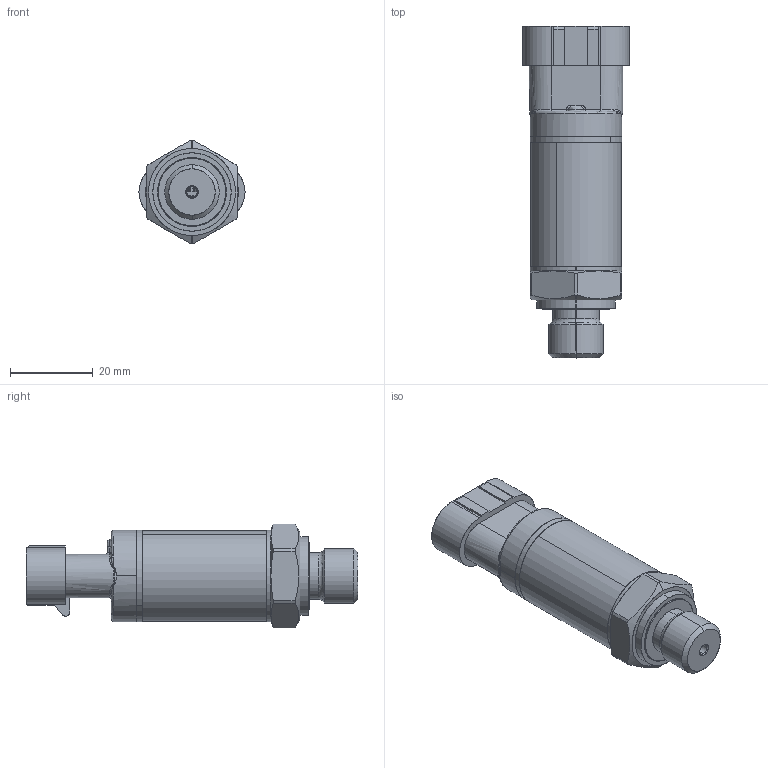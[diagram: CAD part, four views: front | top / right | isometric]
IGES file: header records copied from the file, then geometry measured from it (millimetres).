
Start section: SolidWorks IGES file using analytic representation for surfaces
Global section: file name: \\srv4gefran\dir-cat\Disegni Catalogo\Pressione\KH\3D\Solidworks 2015\KH_AMP superseal.IGS; native system: SolidWorks 2015; preprocessor: SolidWorks 2015; author: Loda-w1; date: 160303.163432; units: millimetre
Bounding box: 25.6 x 80.1 x 25 mm (x, y, z)
Surface area: 13338.9 mm2 (no closed solid volume)
Topology: 0 solids, 0 shells, 489 faces, 6323 edges, 7533 vertices
Faces by surface type: bspline 302, revolution 187
